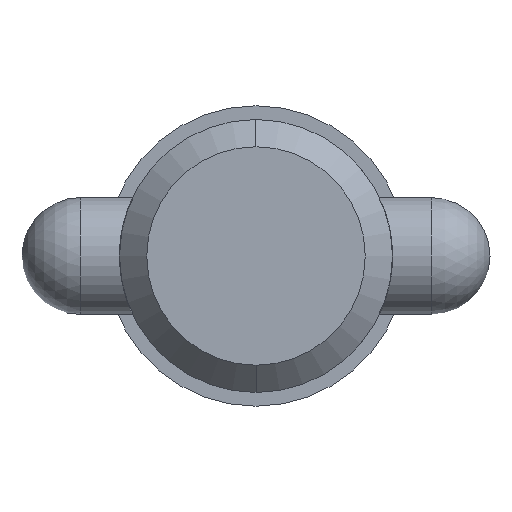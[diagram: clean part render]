
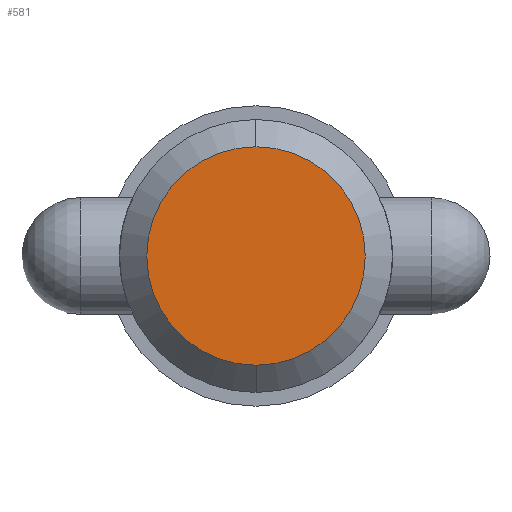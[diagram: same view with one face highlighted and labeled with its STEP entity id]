
A CAD part, left-side view. The second image highlights one B-rep face of the part: STEP entity #581.
In plain terms, the highlighted planar face has unit normal (-1, 0, 0).
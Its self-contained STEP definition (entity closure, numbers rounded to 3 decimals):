
#75 = DIRECTION ( 'NONE',  ( 0., 0., -1. ) ) ;
#156 = AXIS2_PLACEMENT_3D ( 'NONE', #444, #856, #947 ) ;
#176 = AXIS2_PLACEMENT_3D ( 'NONE', #1063, #261, #237 ) ;
#180 = CARTESIAN_POINT ( 'NONE',  ( 0., 0., 8.892 ) ) ;
#198 = EDGE_LOOP ( 'NONE', ( #352, #604 ) ) ;
#212 = VERTEX_POINT ( 'NONE', #180 ) ;
#237 = DIRECTION ( 'NONE',  ( 0., 0., 1. ) ) ;
#261 = DIRECTION ( 'NONE',  ( -1., 0., 0. ) ) ;
#352 = ORIENTED_EDGE ( 'NONE', *, *, #525, .F. ) ;
#403 = FACE_OUTER_BOUND ( 'NONE', #198, .T. ) ;
#444 = CARTESIAN_POINT ( 'NONE',  ( 0., 0., 0. ) ) ;
#482 = CARTESIAN_POINT ( 'NONE',  ( 0., 0., 0. ) ) ;
#525 = EDGE_CURVE ( 'NONE', #928, #212, #641, .T. ) ;
#581 = ADVANCED_FACE ( 'NONE', ( #403 ), #996, .T. ) ;
#604 = ORIENTED_EDGE ( 'NONE', *, *, #821, .F. ) ;
#641 = CIRCLE ( 'NONE', #896, 8.892 ) ;
#683 = CIRCLE ( 'NONE', #156, 8.892 ) ;
#703 = CARTESIAN_POINT ( 'NONE',  ( 0., 0., -8.892 ) ) ;
#815 = DIRECTION ( 'NONE',  ( 1., 0., 0. ) ) ;
#821 = EDGE_CURVE ( 'NONE', #212, #928, #683, .T. ) ;
#856 = DIRECTION ( 'NONE',  ( 1., 0., 0. ) ) ;
#896 = AXIS2_PLACEMENT_3D ( 'NONE', #482, #815, #75 ) ;
#928 = VERTEX_POINT ( 'NONE', #703 ) ;
#947 = DIRECTION ( 'NONE',  ( 0., 0., -1. ) ) ;
#996 = PLANE ( 'NONE',  #176 ) ;
#1063 = CARTESIAN_POINT ( 'NONE',  ( 0., 0., 0. ) ) ;
